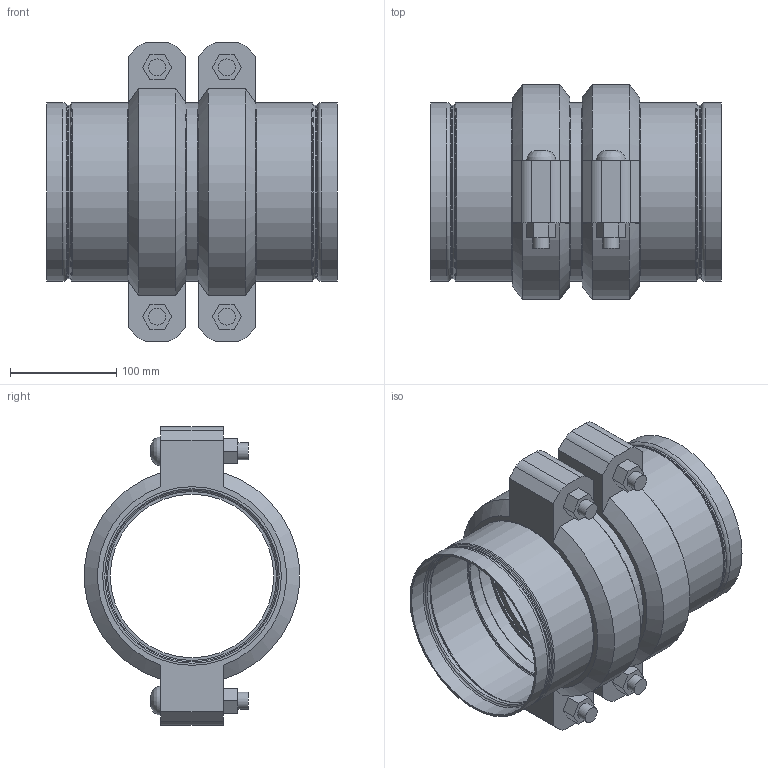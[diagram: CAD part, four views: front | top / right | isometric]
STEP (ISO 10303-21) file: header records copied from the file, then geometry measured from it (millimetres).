
FILE_DESCRIPTION(/* description */ ('VIC STRENGTHIN 100 EXPANSION JOINT 2 COUPLINGS EXPANDED STYLE E155 (ST1)','CAx-IF Rec.Pracs.---Representation and Presentation of Product Manufacturing Information (PMI)---4.0---2014-10-13'),/* implementation_level */ '2;1');
FILE_NAME(/* name */ 'C:\Users\Vjadhav\AppData\Roaming\Autodesk\ApplicationPlugins\Victaulic.Temp\A901\Victaulic_SS-StrengThin 100_Expansion Joint_Expanded_2 Couplings_Style E155 (ST1)_6 (150).stp',/* time_stamp */ '2021-07-23T19:27:10+06:00',/* author */ ('kkamble'),/* organization */ ('Victaulic'),/* preprocessor_version */ 'ST-DEVELOPER v17.2',/* originating_system */ 'Autodesk Inventor 2019',/* authorisation */ '');
FILE_SCHEMA (('AP242_MANAGED_MODEL_BASED_3D_ENGINEERING_MIM_LF { 1 0 10303 442 1 1 4 }'));
Length unit declared in the file: inch
Products named in the file (4): E155-06.0; E494G-06.0; Nipple-06.0; 075-06.0
Assembly tree (5 placements, depth 2):
  E155-06.0
    E494G-06.0  x2
    Nipple-06.0
    075-06.0  x2
Bounding box: 274.07 x 202.46 x 281.18 mm (x, y, z)
Volume: 1928969.6 mm3; surface area: 525195.2 mm2
Topology: 5 solids, 9 shells, 194 faces, 518 edges, 370 vertices
Faces by surface type: plane 90, cylinder 56, torus 32, cone 12, bspline 4
Full cylindrical faces by diameter (mm): 15.875 x8, 17.424 x4, 154.051 x1, 159.258 x2, 159.944 x2, 161.925 x2, 163.271 x2, 163.957 x4, 164.262 x6, 168.275 x13
Entity records: 3702 total; most frequent: DIRECTION 653, CARTESIAN_POINT 651, ORIENTED_EDGE 548, AXIS2_PLACEMENT_3D 277, EDGE_CURVE 274, VERTEX_POINT 197, CIRCLE 167, EDGE_LOOP 129
